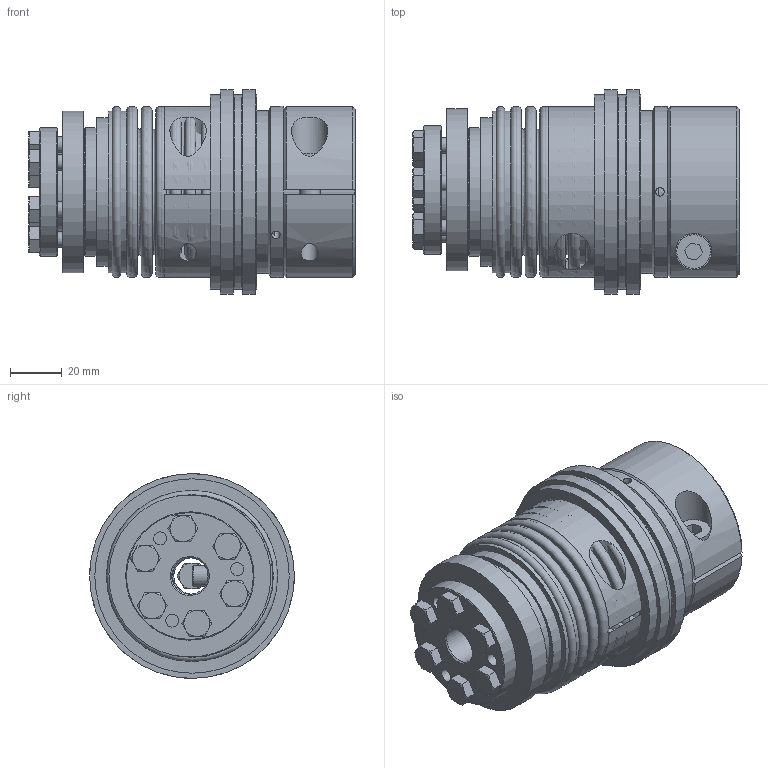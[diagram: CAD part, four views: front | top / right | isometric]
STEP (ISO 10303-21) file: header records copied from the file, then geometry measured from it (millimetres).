
FILE_DESCRIPTION( ( 'Unknown' ), '1' );
FILE_NAME( 'C:/Dokumente und Einstellungen/SKarpstein/Desktop/Korrigierte 3D Modelle/KBK-B-IK/KBK-BIK-60-107.stp', 'Unknown', ( 'Unknown' ), ( 'Unknown' ), 'XStep 1.0', 'Unknown', ' ' );
FILE_SCHEMA( ( 'automotive_design' ) );
Length unit declared in the file: millimetre
Products named in the file (13): Assem1; Assem2; Assem3; BA60_Standard_2; Hex Screw GradeC_DIN_ISO 4018 - M6 x 20-NN_2; KB60_Standard_0; Zylinderschraube DIN 912_4; Stellring 60; Druckring 60; KBK L-K-60 Grundkörper; Klemmnabe 60; Flansch BK60; BL60_Standard_0
Bounding box: 125.76 x 79 x 79 mm (x, y, z)
Volume: 560060 mm3; surface area: 281053.6 mm2
Topology: 34 solids, 34 shells, 608 faces, 1247 edges, 798 vertices
Faces by surface type: plane 263, cone 147, cylinder 143, torus 55
Full cylindrical faces by diameter (mm): 3.242 x6, 4 x6, 5 x9, 6 x31, 6.6 x18, 6.647 x2, 8 x3, 8.5 x2, 13 x3, 14 x5, 15 x2, 30.2 x3, 32 x2, 33 x2, 35 x4, 42 x2, 46 x7, 46.5 x2, 47 x2, 49.5 x3, 56.3 x4, 57.3 x4, 61.3 x2, 62.5 x3, 66 x2, 75 x4, 79 x2
Entity records: 5192 total; most frequent: CARTESIAN_POINT 1221, DIRECTION 818, ORIENTED_EDGE 518, AXIS2_PLACEMENT_3D 386, EDGE_LOOP 376, FACE_OUTER_BOUND 265, EDGE_CURVE 259, VERTEX_POINT 227
